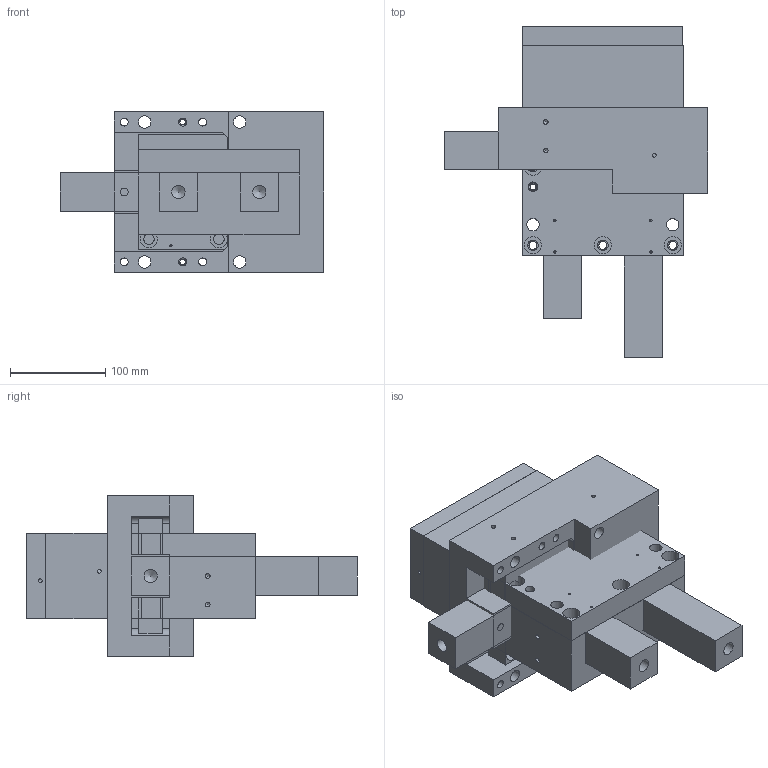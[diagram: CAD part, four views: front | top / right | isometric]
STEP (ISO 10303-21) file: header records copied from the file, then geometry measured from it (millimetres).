
FILE_DESCRIPTION( ( 'PVM 4' ), '1' );
FILE_NAME( 'S:/Normgeräte/PVM/Dokumente/Step/PVM_4.stp', 'Unknown', ( 'MHeitzmann' ), ( 'ROBO MAT AG' ), 'XStep 1.0', 'Solid Edge V15', ' ' );
FILE_SCHEMA( ( 'CONFIG_CONTROL_DESIGN' ) );
Length unit declared in the file: millimetre
Products named in the file (6): Assem1; P 1 003 063; P 1 003 064; P 1 003 065; P 1 003 066
Bounding box: 276.5 x 347 x 169 mm (x, y, z)
Volume: 6918633.4 mm3; surface area: 792299.6 mm2
Topology: 10 solids, 10 shells, 406 faces, 1032 edges, 698 vertices
Faces by surface type: cylinder 194, plane 156, cone 52, torus 4
Full cylindrical faces by diameter (mm): 2.459 x8, 4 x16, 4.917 x8, 5 x8, 6 x4, 6.647 x4, 8.376 x22, 8.5 x4, 10 x8, 11 x22, 11.445 x4, 13 x12, 13.835 x4, 17 x8, 18 x22, 20 x8, 30 x4, 34 x4, 40 x4, 46 x4
Entity records: 6151 total; most frequent: CARTESIAN_POINT 1514, DIRECTION 921, ORIENTED_EDGE 658, EDGE_LOOP 423, AXIS2_PLACEMENT_3D 395, EDGE_CURVE 329, VERTEX_POINT 302, FACE_OUTER_BOUND 294
